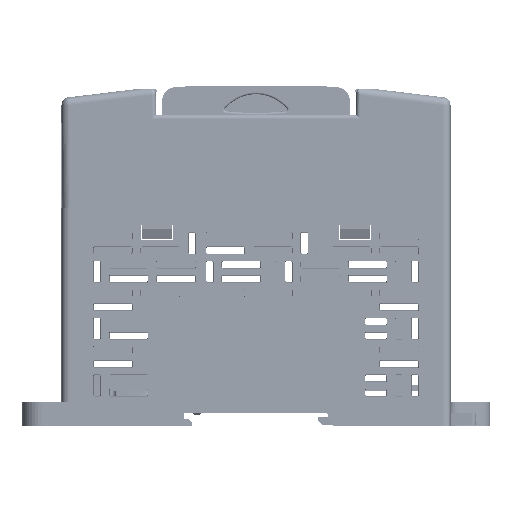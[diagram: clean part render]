
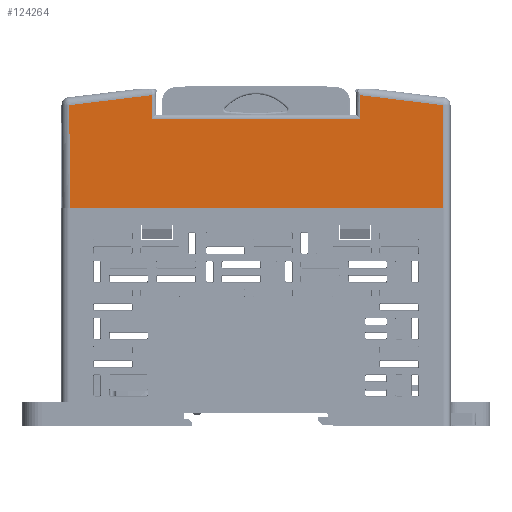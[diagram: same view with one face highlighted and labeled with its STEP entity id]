
A CAD part, left-side view. The second image highlights one B-rep face of the part: STEP entity #124264.
In plain terms, the highlighted planar face has unit normal (-1, 0, 0).
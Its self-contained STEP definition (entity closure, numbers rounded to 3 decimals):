
#98345=DIRECTION('',(0.,-0.993,0.12));
#98346=VECTOR('',#98345,21.007);
#98347=CARTESIAN_POINT('',(34.4,94.,40.278));
#98348=LINE('',#98347,#98346);
#98349=DIRECTION('',(0.,-0.017,-1.));
#98350=VECTOR('',#98349,5.956);
#98351=CARTESIAN_POINT('',(34.4,73.145,42.806));
#98352=LINE('',#98351,#98350);
#98353=DIRECTION('',(0.,-0.017,1.));
#98354=VECTOR('',#98353,5.956);
#98355=CARTESIAN_POINT('',(34.4,20.459,36.85));
#98356=LINE('',#98355,#98354);
#98357=DIRECTION('',(0.,-0.993,
-0.12));
#98358=VECTOR('',#98357,21.007);
#98359=CARTESIAN_POINT('',(34.4,20.355,42.806));
#98360=LINE('',#98359,#98358);
#98361=DIRECTION('',(0.,0.009,1.));
#98362=VECTOR('',#98361,21.91);
#98363=CARTESIAN_POINT('',(34.4,93.809,14.15));
#98364=LINE('',#98363,#98362);
#98369=DIRECTION('',(0.,0.,-1.));
#98370=VECTOR('',#98369,4.219);
#98371=CARTESIAN_POINT('',(34.4,94.,40.278));
#98372=LINE('',#98371,#98370);
#98396=DIRECTION('',(0.,-1.,0.));
#98397=VECTOR('',#98396,94.309);
#98398=CARTESIAN_POINT('',(34.4,93.809,14.15));
#98399=LINE('',#98398,#98397);
#98453=DIRECTION('',(0.,0.,1.));
#98454=VECTOR('',#98453,26.128);
#98455=CARTESIAN_POINT('',(34.4,-0.5,14.15));
#98456=LINE('',#98455,#98454);
#113650=DIRECTION('',(0.,1.,0.));
#113651=VECTOR('',#113650,1.);
#113652=CARTESIAN_POINT('',(34.4,20.459,
36.85));
#113653=LINE('',#113652,#113651);
#113654=DIRECTION('',(0.,1.,
0.));
#113655=VECTOR('',#113654,3.291);
#113656=CARTESIAN_POINT('',(34.4,21.459,
36.85));
#113657=LINE('',#113656,#113655);
#113658=DIRECTION('',(0.,1.,0.));
#113659=VECTOR('',#113658,44.);
#113660=CARTESIAN_POINT('',(34.4,24.75,
36.85));
#113661=LINE('',#113660,#113659);
#113662=DIRECTION('',(0.,1.,
0.));
#113663=VECTOR('',#113662,3.291);
#113664=CARTESIAN_POINT('',(34.4,68.75,
36.85));
#113665=LINE('',#113664,#113663);
#113666=DIRECTION('',(0.,1.,0.));
#113667=VECTOR('',#113666,1.);
#113668=CARTESIAN_POINT('',(34.4,72.041,
36.85));
#113669=LINE('',#113668,#113667);
#118466=CARTESIAN_POINT('',(34.4,94.,40.278));
#118467=CARTESIAN_POINT('',(34.4,94.,36.059));
#118468=VERTEX_POINT('',#118466);
#118469=VERTEX_POINT('',#118467);
#118470=CARTESIAN_POINT('',(34.4,73.145,
42.806));
#118471=VERTEX_POINT('',#118470);
#118472=CARTESIAN_POINT('',(34.4,73.041,
36.85));
#118473=VERTEX_POINT('',#118472);
#118474=CARTESIAN_POINT('',(34.4,72.041,
36.85));
#118475=VERTEX_POINT('',#118474);
#118476=CARTESIAN_POINT('',(34.4,68.75,
36.85));
#118477=VERTEX_POINT('',#118476);
#118478=CARTESIAN_POINT('',(34.4,24.75,
36.85));
#118479=VERTEX_POINT('',#118478);
#118480=CARTESIAN_POINT('',(34.4,21.459,
36.85));
#118481=VERTEX_POINT('',#118480);
#118482=CARTESIAN_POINT('',(34.4,20.459,
36.85));
#118483=VERTEX_POINT('',#118482);
#118484=CARTESIAN_POINT('',(34.4,20.355,
42.806));
#118485=VERTEX_POINT('',#118484);
#118486=CARTESIAN_POINT('',(34.4,-0.5,40.278));
#118487=VERTEX_POINT('',#118486);
#118488=CARTESIAN_POINT('',(34.4,-0.5,14.15));
#118489=VERTEX_POINT('',#118488);
#118490=CARTESIAN_POINT('',(34.4,93.809,14.15));
#118491=VERTEX_POINT('',#118490);
#124231=CARTESIAN_POINT('',(34.4,0.,-5.15));
#124232=DIRECTION('',(-1.,0.,0.));
#124233=DIRECTION('',(0.,0.,1.));
#124234=AXIS2_PLACEMENT_3D('',#124231,#124232,#124233);
#124235=PLANE('',#124234);
#124237=ORIENTED_EDGE('',*,*,#124236,.F.);
#124239=ORIENTED_EDGE('',*,*,#124238,.T.);
#124241=ORIENTED_EDGE('',*,*,#124240,.T.);
#124243=ORIENTED_EDGE('',*,*,#124242,.F.);
#124245=ORIENTED_EDGE('',*,*,#124244,.F.);
#124247=ORIENTED_EDGE('',*,*,#124246,.F.);
#124249=ORIENTED_EDGE('',*,*,#124248,.F.);
#124251=ORIENTED_EDGE('',*,*,#124250,.F.);
#124253=ORIENTED_EDGE('',*,*,#124252,.T.);
#124255=ORIENTED_EDGE('',*,*,#124254,.T.);
#124257=ORIENTED_EDGE('',*,*,#124256,.F.);
#124259=ORIENTED_EDGE('',*,*,#124258,.F.);
#124261=ORIENTED_EDGE('',*,*,#124260,.T.);
#124262=EDGE_LOOP('',(#124237,#124239,#124241,#124243,#124245,#124247,#124249,
#124251,#124253,#124255,#124257,#124259,#124261));
#124263=FACE_OUTER_BOUND('',#124262,.F.);
#124264=ADVANCED_FACE('',(#124263),#124235,.T.);
#124236=EDGE_CURVE('',#118468,#118469,#98372,.T.);
#124238=EDGE_CURVE('',#118468,#118471,#98348,.T.);
#124240=EDGE_CURVE('',#118471,#118473,#98352,.T.);
#124242=EDGE_CURVE('',#118475,#118473,#113669,.T.);
#124244=EDGE_CURVE('',#118477,#118475,#113665,.T.);
#124246=EDGE_CURVE('',#118479,#118477,#113661,.T.);
#124248=EDGE_CURVE('',#118481,#118479,#113657,.T.);
#124250=EDGE_CURVE('',#118483,#118481,#113653,.T.);
#124252=EDGE_CURVE('',#118483,#118485,#98356,.T.);
#124254=EDGE_CURVE('',#118485,#118487,#98360,.T.);
#124256=EDGE_CURVE('',#118489,#118487,#98456,.T.);
#124258=EDGE_CURVE('',#118491,#118489,#98399,.T.);
#124260=EDGE_CURVE('',#118491,#118469,#98364,.T.);
